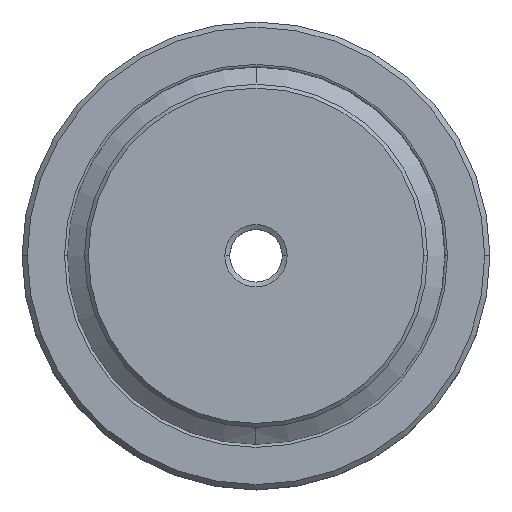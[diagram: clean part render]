
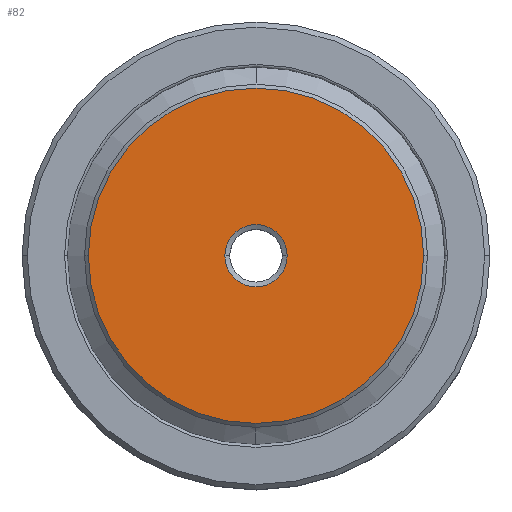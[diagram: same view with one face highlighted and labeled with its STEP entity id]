
A CAD part, top view. The second image highlights one B-rep face of the part: STEP entity #82.
In plain terms, the highlighted planar face has unit normal (0, 0, 1).
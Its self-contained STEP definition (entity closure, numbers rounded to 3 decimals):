
#82=ADVANCED_FACE('',(#167,#168),#169,.T.);
#167=FACE_OUTER_BOUND('',#261,.T.);
#168=FACE_BOUND('',#262,.T.);
#169=PLANE('',#263);
#261=EDGE_LOOP('',(#549,#550));
#262=EDGE_LOOP('',(#551,#552));
#263=AXIS2_PLACEMENT_3D('',#553,#554,#555);
#549=ORIENTED_EDGE('',*,*,#641,.F.);
#550=ORIENTED_EDGE('',*,*,#711,.F.);
#551=ORIENTED_EDGE('',*,*,#710,.T.);
#552=ORIENTED_EDGE('',*,*,#644,.T.);
#553=CARTESIAN_POINT('',(19.125,0.,37.0));
#554=DIRECTION('',(0.0,0.,1.0));
#555=DIRECTION('',(-1.0,0.0,0.0));
#641=EDGE_CURVE('',#764,#766,#767,.T.);
#644=EDGE_CURVE('',#772,#769,#773,.T.);
#710=EDGE_CURVE('',#769,#772,#876,.T.);
#711=EDGE_CURVE('',#766,#764,#877,.T.);
#764=VERTEX_POINT('',#934);
#766=VERTEX_POINT('',#937);
#767=CIRCLE('',#938,32.25);
#769=VERTEX_POINT('',#941);
#772=VERTEX_POINT('',#945);
#773=CIRCLE('',#946,6.0);
#876=CIRCLE('',#1066,6.0);
#877=CIRCLE('',#1067,32.25);
#934=CARTESIAN_POINT('',(32.25,0.,37.0));
#937=CARTESIAN_POINT('',(-32.25,0.,37.0));
#938=AXIS2_PLACEMENT_3D('',#1141,#1142,#1143);
#941=CARTESIAN_POINT('',(6.0,0.,37.0));
#945=CARTESIAN_POINT('',(-6.0,0.,37.0));
#946=AXIS2_PLACEMENT_3D('',#1146,#1147,#1148);
#1066=AXIS2_PLACEMENT_3D('',#1310,#1311,#1312);
#1067=AXIS2_PLACEMENT_3D('',#1313,#1314,#1315);
#1141=CARTESIAN_POINT('',(0.0,0.,37.0));
#1142=DIRECTION('',(0.0,0.,-1.0));
#1143=DIRECTION('',(1.0,0.0,0.0));
#1146=CARTESIAN_POINT('',(0.0,0.,37.0));
#1147=DIRECTION('',(0.0,0.,-1.0));
#1148=DIRECTION('',(1.0,0.0,0.0));
#1310=CARTESIAN_POINT('',(0.0,0.,37.0));
#1311=DIRECTION('',(0.0,0.,-1.0));
#1312=DIRECTION('',(1.0,0.0,0.0));
#1313=CARTESIAN_POINT('',(0.0,0.,37.0));
#1314=DIRECTION('',(0.0,0.,-1.0));
#1315=DIRECTION('',(1.0,0.0,0.0));
